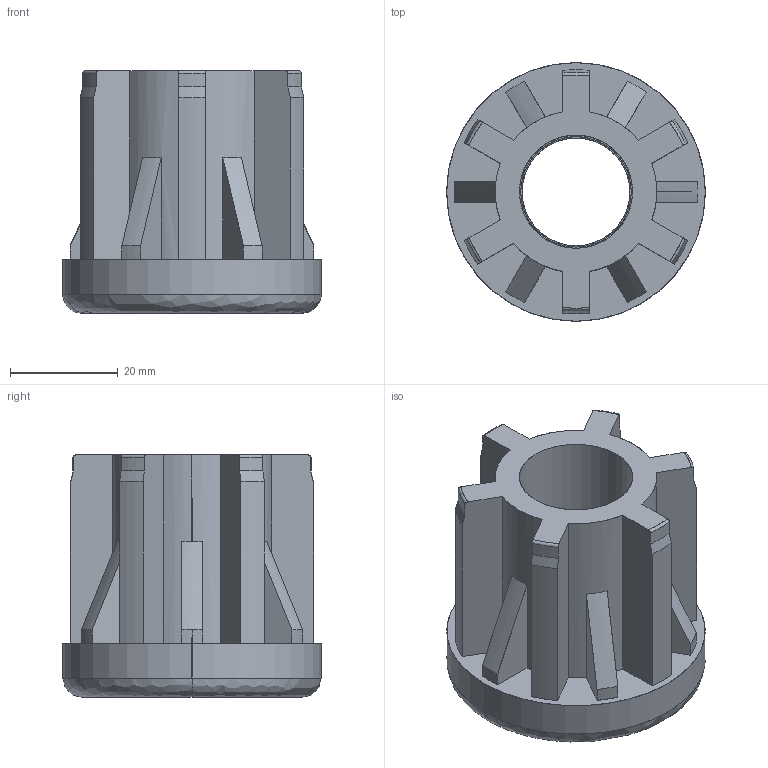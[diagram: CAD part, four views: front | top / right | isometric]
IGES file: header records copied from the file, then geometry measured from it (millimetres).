
Start section: SolidWorks IGES file using analytic representation for surfaces
Global section: file name: Y:\Tecnodin, S.L\PLAPP-Dirección - Documentos\General\Models CAD\Actiby\42006448220.IGS; native system: SolidWorks 2018; preprocessor: SolidWorks 2018; author: GerPro; date: 200225.182528; units: millimetre
Bounding box: 48 x 48 x 45 mm (x, y, z)
Surface area: 17732.5 mm2 (no closed solid volume)
Topology: 0 solids, 0 shells, 95 faces, 1055 edges, 1055 vertices
Faces by surface type: revolution 56, bspline 39
